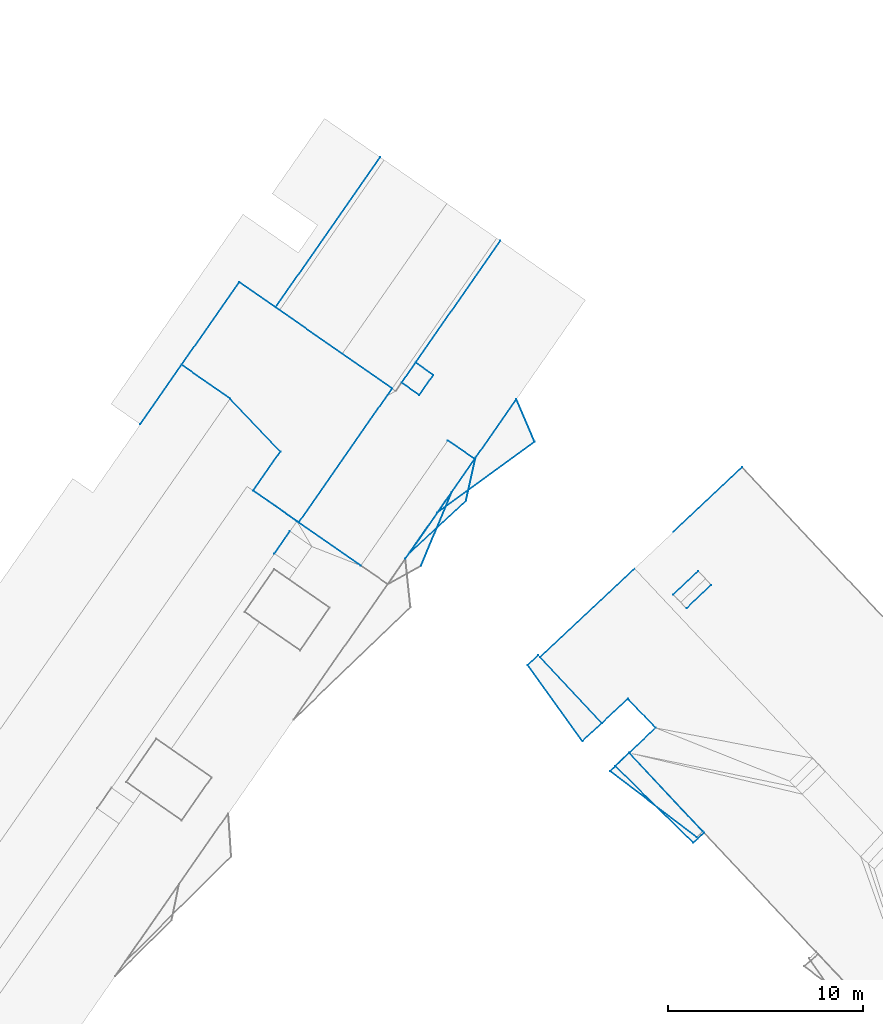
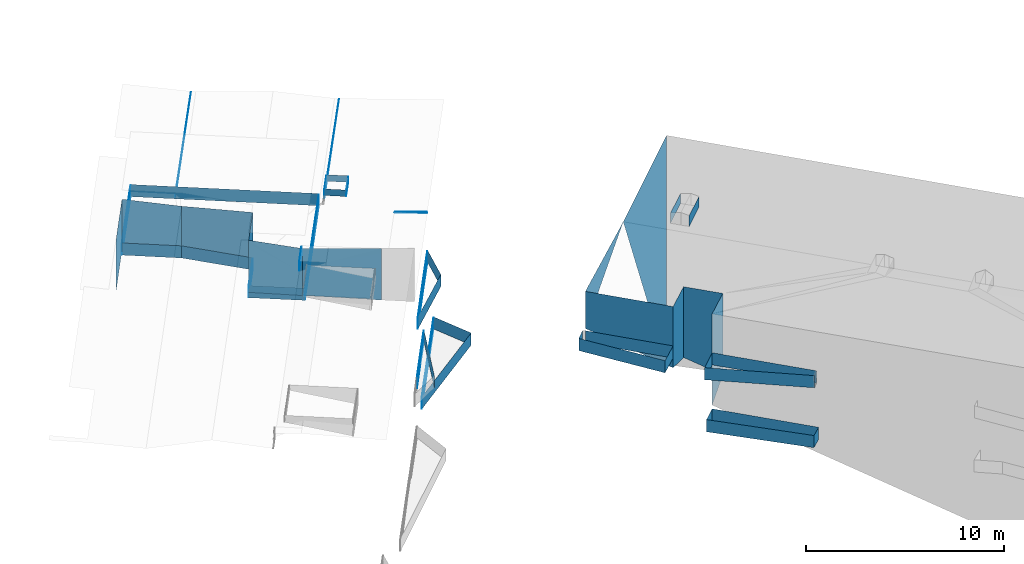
# Not in any storey, part 52 of 136: 80 walls.
"""IFC4 building model written with IfcOpenShell, lengths in metres."""

import ifcopenshell
import ifcopenshell.guid

model = None  # the IFC model being written
_history = None  # IfcOwnerHistory: only IFC2X3 demands one
_inside = {}  # id of a spatial element -> (the spatial element, [elements in it])
_under = {}  # id of a project, library or spatial element -> (it, [spatial elements below it])
_declared = {}  # id of a project -> (the project, [libraries it declares])
_typed = {}  # id of a type object -> (the type object, [elements of that type])
_made_of = {}  # id of a material, layer set ... -> (it, [elements and type objects made of it])


def new_model(schema):
    """Start an empty IFC model of exactly this schema.

    Asked for "IFC4X3", IfcOpenShell would pick the latest addendum, in which some entities
    have other attributes; the version numbers below select the first issue.
    IFC2X3 requires an IfcOwnerHistory on every rooted entity: one is made here for all.
    """
    global model, _history
    if schema == "IFC4X3":
        model = ifcopenshell.file(schema_version=(4, 3, 0, 0))
    else:
        model = ifcopenshell.file(schema=schema)
    _inside.clear()
    _under.clear()
    _declared.clear()
    _typed.clear()
    _made_of.clear()
    _history = None
    if model.schema == "IFC2X3":
        org = make("IfcOrganization", Name="unknown")
        user = make(
            "IfcPersonAndOrganization",
            ThePerson=make("IfcPerson", FamilyName="unknown"),
            TheOrganization=org,
        )
        app = make(
            "IfcApplication",
            ApplicationDeveloper=org,
            Version="unknown",
            ApplicationFullName="unknown",
            ApplicationIdentifier="unknown",
        )
        _history = make(
            "IfcOwnerHistory",
            OwningUser=user,
            OwningApplication=app,
            ChangeAction="ADDED",
            CreationDate=0,
        )
    return model


def make(cls, **values):
    """One entity of the class cls with the attributes given. An attribute that is None is left unset."""
    return model.create_entity(
        cls, **{name: value for name, value in values.items() if value is not None}
    )


def entity(cls, *values):
    """Any entity or typed value of the class cls, its attributes in the order of the schema. None: left unset."""
    e = model.create_entity(cls)
    for i, value in enumerate(values):
        if value is not None:
            e[i] = value
    return e


def rooted(cls, **values):
    """An entity with a GlobalId (a new one), such as an element, a storey or a relation."""
    return make(cls, GlobalId=ifcopenshell.guid.new(), OwnerHistory=_history, **values)


def si_unit(unit_type, name, prefix=None):
    """IfcSIUnit, for example si_unit("LENGTHUNIT", "METRE", prefix="MILLI")."""
    return make("IfcSIUnit", UnitType=unit_type, Prefix=prefix, Name=name)


def converted_unit(unit_type, name, factor, base, dimensions=None, offset=None):
    """IfcConversionBasedUnit, such as the inch: factor (a typed value) times the base unit."""
    return make(
        "IfcConversionBasedUnit"
        if offset is None
        else "IfcConversionBasedUnitWithOffset",
        ConversionOffset=offset,
        Dimensions=None
        if dimensions is None
        else entity("IfcDimensionalExponents", *dimensions),
        UnitType=unit_type,
        Name=name,
        ConversionFactor=make(
            "IfcMeasureWithUnit", ValueComponent=factor, UnitComponent=base
        ),
    )


def assignment(units):
    """IfcUnitAssignment: the units of a project."""
    return None if units is None else make("IfcUnitAssignment", Units=units)


def point(xyz):
    """IfcCartesianPoint."""
    return None if xyz is None else make("IfcCartesianPoint", Coordinates=xyz)


def direction(xyz):
    """IfcDirection."""
    return None if xyz is None else make("IfcDirection", DirectionRatios=xyz)


def frame(location, z_axis=None, x_axis=None):
    """IfcAxis2Placement3D, a coordinate frame: its origin and axes. An axis left out is left unset."""
    return make(
        "IfcAxis2Placement3D",
        Location=point(location),
        Axis=direction(z_axis),
        RefDirection=direction(x_axis),
    )


def origin():
    """The frame at (0, 0, 0) with its axes left unset."""
    return frame((0.0, 0.0, 0.0))


def place(relative_to, where):
    """IfcLocalPlacement: puts the frame where relative to a parent placement (None: the world)."""
    return make(
        "IfcLocalPlacement", PlacementRelTo=relative_to, RelativePlacement=where
    )


def context(
    kind, dimensions, precision=None, world=None, true_north=None, identifier=None
):
    """IfcGeometricRepresentationContext, for example the 3D "Model" context."""
    return make(
        "IfcGeometricRepresentationContext",
        ContextIdentifier=identifier,
        ContextType=kind,
        CoordinateSpaceDimension=dimensions,
        Precision=precision,
        WorldCoordinateSystem=world,
        TrueNorth=true_north,
    )


def subcontext(parent, identifier, kind, view, scale=None):
    """IfcGeometricRepresentationSubContext, for example "Body" below "Model"."""
    return make(
        "IfcGeometricRepresentationSubContext",
        ContextIdentifier=identifier,
        ContextType=kind,
        ParentContext=parent,
        TargetScale=scale,
        TargetView=view,
    )


def project(units=None, contexts=None):
    """IfcProject with its units and contexts."""
    return rooted(
        "IfcProject",
        Name="project",
        RepresentationContexts=contexts,
        UnitsInContext=assignment(units),
    )


def spatial(cls, under=None, at=None, **own):
    """A site, building, storey or space (cls), placed at a placement, below another one or the project."""
    s = rooted(cls, ObjectPlacement=at, **own)
    if under is not None:
        _under.setdefault(under.id(), (under, []))[1].append(s)
    return s


def faces_of(points, faces, orient=None, outer=None):
    """IfcFace entities. A face is a list of loops; a loop is a list of indices into points, from 0.

    orient and outer hold one flag for each loop. By default every Orientation is true, the
    first loop of a face is its IfcFaceOuterBound and the others are IfcFaceBound.
    """
    made = []
    for i, loops in enumerate(faces):
        bounds = []
        for j, loop in enumerate(loops):
            is_outer = j == 0 if outer is None else outer[i][j]
            bounds.append(
                make(
                    "IfcFaceOuterBound" if is_outer else "IfcFaceBound",
                    Bound=make("IfcPolyLoop", Polygon=[points[k] for k in loop]),
                    Orientation=True if orient is None else orient[i][j],
                )
            )
        made.append(make("IfcFace", Bounds=bounds))
    return made


def face_set(faces, orient=None, outer=None):
    """The faces of one IfcConnectedFaceSet. surface_model builds it on its shared points."""
    return ("IfcConnectedFaceSet", faces, orient, outer)


def surface_model(cls, points, shells):
    """IfcFaceBasedSurfaceModel or IfcShellBasedSurfaceModel (cls): surfaces that need not close."""
    shared = [point(p) for p in points]
    made = [make(c, CfsFaces=faces_of(shared, fs, o, b)) for c, fs, o, b in shells]
    if cls == "IfcFaceBasedSurfaceModel":
        return make(cls, FbsmFaces=made)
    return make(cls, SbsmBoundary=made)


def shape(context_of_items, identifier, shape_type, items):
    """IfcShapeRepresentation: the items that make up one representation, for example the "Body"."""
    return make(
        "IfcShapeRepresentation",
        ContextOfItems=context_of_items,
        RepresentationIdentifier=identifier,
        RepresentationType=shape_type,
        Items=items,
    )


def made_of(thing, what):
    """Note that an element or type object is made of a material, layer set ...; save() writes the relation."""
    if what is not None:
        _made_of.setdefault(what.id(), (what, []))[1].append(thing)
    return thing


def element(
    cls,
    number,
    at=None,
    inside=None,
    cuts=None,
    type_object=None,
    material=None,
    context=None,
    identifier="Body",
    shape_type=None,
    held_by="IfcProductDefinitionShape",
    body=None,
    shapes=None,
    **own,
):
    """One element of the class cls, such as IfcWall. Its Tag is "e" and its number.

    at: its placement. inside: the storey or other place that contains it. cuts: it is an
    opening in that element (IfcRelVoidsElement). A single representation is given by context,
    identifier, shape_type and body (its items); several are given by shapes. held_by: the class
    of the entity that holds the representations. save() writes the other relations.
    """
    e = rooted(cls, Tag="e%d" % number, ObjectPlacement=at, **own)
    if body is not None:
        shapes = [shape(context, identifier, shape_type, body)]
    if shapes is not None:
        e.Representation = make(held_by, Representations=shapes)
    if inside is not None:
        _inside.setdefault(inside.id(), (inside, []))[1].append(e)
    if cuts is not None:
        rooted(
            "IfcRelVoidsElement", RelatingBuildingElement=cuts, RelatedOpeningElement=e
        )
    if type_object is not None:
        _typed.setdefault(type_object.id(), (type_object, []))[1].append(e)
    return made_of(e, material)


def aggregate(whole, parts):
    """IfcRelAggregates: a whole, such as a stair, and the parts it consists of."""
    return rooted("IfcRelAggregates", RelatingObject=whole, RelatedObjects=parts)


def save(model, path):
    """Write the relations noted so far, then the file.

    IfcRelAggregates (storeys below a building ...), IfcRelContainedInSpatialStructure (elements
    in a storey), IfcRelDefinesByType, IfcRelAssociatesMaterial and IfcRelDeclares: one each for
    every whole, place, type object, material and project.
    """
    for whole, parts in _under.values():
        aggregate(whole, parts)
    for where, things in _inside.values():
        rooted(
            "IfcRelContainedInSpatialStructure",
            RelatedElements=things,
            RelatingStructure=where,
        )
    for kind, things in _typed.values():
        rooted("IfcRelDefinesByType", RelatedObjects=things, RelatingType=kind)
    for what, things in _made_of.values():
        rooted("IfcRelAssociatesMaterial", RelatedObjects=things, RelatingMaterial=what)
    for by, libraries in _declared.values():
        rooted("IfcRelDeclares", RelatingContext=by, RelatedDefinitions=libraries)
    model.write(path)


model = new_model("IFC4")

# Units and contexts
model_context = context("Model", 3, precision=1e-05, world=origin())
body_context = subcontext(model_context, "Body", "Model", "MODEL_VIEW")
ifc_project = project(units=[converted_unit("PLANEANGLEUNIT", "DEGREE", entity("IfcRatioMeasure", 0.0174532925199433), si_unit("PLANEANGLEUNIT", "RADIAN"), dimensions=[0, 0, 0, 0, 0, 0, 0]), si_unit("AREAUNIT", "SQUARE_METRE"), si_unit("LENGTHUNIT", "METRE")], contexts=[model_context])

# Site, building
site_placement = place(None, origin())
site = spatial("IfcSite", under=ifc_project, at=site_placement, Name="_site")
building_1_placement = place(site_placement, origin())
building_1 = spatial("IfcBuilding", under=site, at=building_1_placement, Name="_building")

# Walls
wall_1_placement = place(building_1_placement, origin())
element("IfcWall", 1, at=wall_1_placement, inside=building_1, Name="Wall", PredefinedType="NOTDEFINED", context=body_context, shape_type="SurfaceModel", body=[
    surface_model("IfcFaceBasedSurfaceModel", [(-4.44, 132.12, 47.63), (-1.28, 128.75, 47.63), (-1.28, 128.75, 48.38), (-4.44, 132.12, 48.38)], [face_set([[[0, 1, 2, 3]]])]),
])
wall_2_placement = place(building_1_placement, origin())
element("IfcWall", 2, at=wall_2_placement, inside=building_1, Name="Wall", PredefinedType="NOTDEFINED", context=body_context, shape_type="SurfaceModel", body=[
    surface_model("IfcFaceBasedSurfaceModel", [(-5.07, 131.7, 47.63), (-4.54, 132.22, 47.63), (-4.54, 132.22, 48.38), (-5.07, 131.7, 48.38)], [face_set([[[0, 1, 2, 3]]])]),
])
wall_3_placement = place(building_1_placement, origin())
element("IfcWall", 3, at=wall_3_placement, inside=building_1, Name="Wall", PredefinedType="NOTDEFINED", context=body_context, shape_type="SurfaceModel", body=[
    surface_model("IfcFaceBasedSurfaceModel", [(-2.28, 127.83, 47.63), (-5.07, 131.7, 47.63), (-5.07, 131.7, 48.38), (-2.28, 127.83, 48.38)], [face_set([[[0, 1, 2, 3]]])]),
])
wall_4_placement = place(building_1_placement, origin())
element("IfcWall", 4, at=wall_4_placement, inside=building_1, Name="Wall", PredefinedType="NOTDEFINED", context=body_context, shape_type="SurfaceModel", body=[
    surface_model("IfcFaceBasedSurfaceModel", [(-1.28, 128.75, 47.63), (-2.28, 127.83, 47.63), (-2.28, 127.83, 48.38), (-1.28, 128.75, 48.38)], [face_set([[[0, 1, 2, 3]]])]),
])
wall_5_placement = place(building_1_placement, origin())
element("IfcWall", 5, at=wall_5_placement, inside=building_1, Name="Wall", PredefinedType="NOTDEFINED", context=body_context, shape_type="SurfaceModel", body=[
    surface_model("IfcFaceBasedSurfaceModel", [(-5.07, 131.7, 47.63), (-4.54, 132.22, 47.63), (-4.54, 132.22, 48.38), (-5.07, 131.7, 48.38)], [face_set([[[0, 1, 2, 3]]])]),
])
wall_6_placement = place(building_1_placement, origin())
element("IfcWall", 6, at=wall_6_placement, inside=building_1, Name="Wall", PredefinedType="NOTDEFINED", context=body_context, shape_type="SurfaceModel", body=[
    surface_model("IfcFaceBasedSurfaceModel", [(-2.28, 127.83, 47.63), (-5.07, 131.7, 47.63), (-5.07, 131.7, 48.38), (-2.28, 127.83, 48.38)], [face_set([[[0, 1, 2, 3]]])]),
])
wall_7_placement = place(building_1_placement, origin())
element("IfcWall", 7, at=wall_7_placement, inside=building_1, Name="Wall", PredefinedType="NOTDEFINED", context=body_context, shape_type="SurfaceModel", body=[
    surface_model("IfcFaceBasedSurfaceModel", [(4.31, 135.811, 51.34), (3.04, 134.61, 51.34), (3.04, 134.61, 50.664), (4.31, 135.811, 50.714)], [face_set([[[0, 1, 2, 3]]])]),
])
wall_8_placement = place(building_1_placement, origin())
element("IfcWall", 8, at=wall_8_placement, inside=building_1, Name="Wall", PredefinedType="NOTDEFINED", context=body_context, shape_type="SurfaceModel", body=[
    surface_model("IfcFaceBasedSurfaceModel", [(-0.87, 126.28, 47.65), (0.11, 127.22, 47.65), (0.11, 127.22, 48.4), (-0.87, 126.28, 48.4)], [face_set([[[0, 1, 2, 3]]])]),
])
for number, where, name in (
    (9, (0.0, 0.0, 0.0), "Wall"),
    (10, (0.0, 0.0, 0.0), "Wall"),
):
    element("IfcWall", number, at=place(building_1_placement, frame(where)), inside=building_1, Name=name, PredefinedType="NOTDEFINED", context=body_context, shape_type="SurfaceModel", body=[
        surface_model("IfcFaceBasedSurfaceModel", [(3.57, 122.9, 47.65), (-0.87, 126.28, 47.65), (-0.87, 126.28, 48.4), (3.57, 122.9, 48.4)], [face_set([[[0, 1, 2, 3]]])]),
    ])
wall_9_placement = place(building_1_placement, origin())
element("IfcWall", 11, at=wall_9_placement, inside=building_1, Name="Wall", PredefinedType="NOTDEFINED", context=body_context, shape_type="SurfaceModel", body=[
    surface_model("IfcFaceBasedSurfaceModel", [(0.11, 127.22, 47.65), (3.87, 123.22, 47.65), (3.87, 123.22, 48.4), (0.11, 127.22, 48.4)], [face_set([[[0, 1, 2, 3]]])]),
])
wall_10_placement = place(building_1_placement, origin())
element("IfcWall", 12, at=wall_10_placement, inside=building_1, Name="Wall", PredefinedType="NOTDEFINED", context=body_context, shape_type="SurfaceModel", body=[
    surface_model("IfcFaceBasedSurfaceModel", [(-0.87, 126.28, 47.65), (0.11, 127.22, 47.65), (0.11, 127.22, 48.4), (-0.87, 126.28, 48.4)], [face_set([[[0, 1, 2, 3]]])]),
])
wall_11_placement = place(building_1_placement, origin())
element("IfcWall", 13, at=wall_11_placement, inside=building_1, Name="Wall", PredefinedType="NOTDEFINED", context=body_context, shape_type="SurfaceModel", body=[
    surface_model("IfcFaceBasedSurfaceModel", [(0.11, 127.22, 44.2), (3.95, 123.13, 44.2), (3.95, 123.13, 44.95), (0.11, 127.22, 44.95)], [face_set([[[0, 1, 2, 3]]])]),
])
wall_12_placement = place(building_1_placement, origin())
element("IfcWall", 14, at=wall_12_placement, inside=building_1, Name="Wall", PredefinedType="NOTDEFINED", context=body_context, shape_type="SurfaceModel", body=[
    surface_model("IfcFaceBasedSurfaceModel", [(0.05, 130.0, 50.8), (-1.28, 128.75, 50.8), (-1.28, 128.75, 47.031), (0.05, 130.0, 46.443)], [face_set([[[0, 1, 2, 3]]])]),
])
wall_13_placement = place(building_1_placement, origin())
element("IfcWall", 15, at=wall_13_placement, inside=building_1, Name="Wall", PredefinedType="NOTDEFINED", context=body_context, shape_type="SurfaceModel", body=[
    surface_model("IfcFaceBasedSurfaceModel", [(-4.44, 132.12, 50.8), (0.38, 136.65, 50.65), (-4.44, 132.12, 48.519)], [face_set([[[0, 1, 2]]])]),
])
wall_14_placement = place(building_1_placement, origin())
element("IfcWall", 16, at=wall_14_placement, inside=building_1, Name="Wall", PredefinedType="NOTDEFINED", context=body_context, shape_type="SurfaceModel", body=[
    surface_model("IfcFaceBasedSurfaceModel", [(-1.28, 128.75, 50.8), (-4.44, 132.12, 50.8), (-4.44, 132.12, 48.519), (-1.28, 128.75, 47.031)], [face_set([[[0, 1, 2, 3]]])]),
])
wall_15_placement = place(building_1_placement, origin())
element("IfcWall", 17, at=wall_15_placement, inside=building_1, Name="Wall", PredefinedType="NOTDEFINED", context=body_context, shape_type="SurfaceModel", body=[
    surface_model("IfcFaceBasedSurfaceModel", [(0.11, 127.22, 50.8), (1.47, 128.5, 50.8), (1.47, 128.5, 45.778), (0.11, 127.22, 45.176)], [face_set([[[0, 1, 2, 3]]])]),
])
wall_16_placement = place(building_1_placement, origin())
element("IfcWall", 18, at=wall_16_placement, inside=building_1, Name="Wall", PredefinedType="NOTDEFINED", context=body_context, shape_type="SurfaceModel", body=[
    surface_model("IfcFaceBasedSurfaceModel", [(1.47, 128.5, 50.8), (0.05, 130.0, 50.8), (0.05, 130.0, 46.443), (1.47, 128.5, 45.778)], [face_set([[[0, 1, 2, 3]]])]),
])
wall_17_placement = place(building_1_placement, origin())
element("IfcWall", 19, at=wall_17_placement, inside=building_1, Name="Wall", PredefinedType="NOTDEFINED", context=body_context, shape_type="SurfaceModel", body=[
    surface_model("IfcFaceBasedSurfaceModel", [(0.38, 136.65, 50.65), (5.89, 141.84, 50.89), (5.89, 141.84, 36.789)], [face_set([[[0, 1, 2]]])]),
])
wall_18_placement = place(building_1_placement, origin())
element("IfcWall", 20, at=wall_18_placement, inside=building_1, Name="Wall", PredefinedType="NOTDEFINED", context=body_context, shape_type="SurfaceModel", body=[
    surface_model("IfcFaceBasedSurfaceModel", [(-1.28, 128.75, 47.63), (-2.28, 127.83, 47.63), (-2.28, 127.83, 48.38), (-1.28, 128.75, 48.38)], [face_set([[[0, 1, 2, 3]]])]),
])
wall_19_placement = place(building_1_placement, origin())
element("IfcWall", 21, at=wall_19_placement, inside=building_1, Name="Wall", PredefinedType="NOTDEFINED", context=body_context, shape_type="SurfaceModel", body=[
    surface_model("IfcFaceBasedSurfaceModel", [(-4.44, 132.12, 47.63), (-1.28, 128.75, 47.63), (-1.28, 128.75, 48.38), (-4.44, 132.12, 48.38)], [face_set([[[0, 1, 2, 3]]])]),
])
wall_20_placement = place(building_1_placement, origin())
element("IfcWall", 22, at=wall_20_placement, inside=building_1, Name="Wall", PredefinedType="NOTDEFINED", context=body_context, shape_type="SurfaceModel", body=[
    surface_model("IfcFaceBasedSurfaceModel", [(2.37, 135.32, 51.32), (3.64, 136.521, 51.32), (3.64, 136.521, 50.715), (2.37, 135.32, 50.664)], [face_set([[[0, 1, 2, 3]]])]),
])
wall_21_placement = place(building_1_placement, origin())
element("IfcWall", 23, at=wall_21_placement, inside=building_1, Name="Wall", PredefinedType="NOTDEFINED", context=body_context, shape_type="SurfaceModel", body=[
    surface_model("IfcFaceBasedSurfaceModel", [(-0.61, 126.54, 44.2), (0.11, 127.22, 44.2), (0.11, 127.22, 44.95), (-0.61, 126.54, 44.95)], [face_set([[[0, 1, 2, 3]]])]),
])
wall_22_placement = place(building_1_placement, origin())
element("IfcWall", 24, at=wall_22_placement, inside=building_1, Name="Wall", PredefinedType="NOTDEFINED", context=body_context, shape_type="SurfaceModel", body=[
    surface_model("IfcFaceBasedSurfaceModel", [(3.38, 122.62, 44.2), (-0.61, 126.54, 44.2), (-0.61, 126.54, 44.95), (3.38, 122.62, 44.95)], [face_set([[[0, 1, 2, 3]]])]),
])
wall_23_placement = place(building_1_placement, origin())
element("IfcWall", 25, at=wall_23_placement, inside=building_1, Name="Wall", PredefinedType="NOTDEFINED", context=body_context, shape_type="SurfaceModel", body=[
    surface_model("IfcFaceBasedSurfaceModel", [(3.95, 123.13, 44.2), (3.38, 122.62, 44.2), (3.38, 122.62, 44.95), (3.95, 123.13, 44.95)], [face_set([[[0, 1, 2, 3]]])]),
])
wall_24_placement = place(building_1_placement, origin())
element("IfcWall", 26, at=wall_24_placement, inside=building_1, Name="Wall", PredefinedType="NOTDEFINED", context=body_context, shape_type="SurfaceModel", body=[
    surface_model("IfcFaceBasedSurfaceModel", [(0.11, 127.22, 44.2), (3.95, 123.13, 44.2), (3.95, 123.13, 44.95), (0.11, 127.22, 44.95)], [face_set([[[0, 1, 2, 3]]])]),
])
wall_25_placement = place(building_1_placement, origin())
element("IfcWall", 27, at=wall_25_placement, inside=building_1, Name="Wall", PredefinedType="NOTDEFINED", context=body_context, shape_type="SurfaceModel", body=[
    surface_model("IfcFaceBasedSurfaceModel", [(-0.61, 126.54, 44.2), (0.11, 127.22, 44.2), (0.11, 127.22, 44.95), (-0.61, 126.54, 44.95)], [face_set([[[0, 1, 2, 3]]])]),
])
wall_26_placement = place(building_1_placement, origin())
element("IfcWall", 28, at=wall_26_placement, inside=building_1, Name="Wall", PredefinedType="NOTDEFINED", context=body_context, shape_type="SurfaceModel", body=[
    surface_model("IfcFaceBasedSurfaceModel", [(3.38, 122.62, 44.2), (-0.61, 126.54, 44.2), (-0.61, 126.54, 44.95), (3.38, 122.62, 44.95)], [face_set([[[0, 1, 2, 3]]])]),
])
wall_27_placement = place(building_1_placement, origin())
element("IfcWall", 29, at=wall_27_placement, inside=building_1, Name="Wall", PredefinedType="NOTDEFINED", context=body_context, shape_type="SurfaceModel", body=[
    surface_model("IfcFaceBasedSurfaceModel", [(3.95, 123.13, 44.2), (3.38, 122.62, 44.2), (3.38, 122.62, 44.95), (3.95, 123.13, 44.95)], [face_set([[[0, 1, 2, 3]]])]),
])
wall_28_placement = place(building_1_placement, origin())
element("IfcWall", 30, at=wall_28_placement, inside=building_1, Name="Wall", PredefinedType="NOTDEFINED", context=body_context, shape_type="SurfaceModel", body=[
    surface_model("IfcFaceBasedSurfaceModel", [(0.11, 127.22, 47.65), (3.87, 123.22, 47.65), (3.87, 123.22, 48.4), (0.11, 127.22, 48.4)], [face_set([[[0, 1, 2, 3]]])]),
])

# Building
building_2_placement = place(site_placement, origin())
building_2 = spatial("IfcBuilding", under=site, at=building_2_placement, Name="_building")

# Walls
wall_29_placement = place(building_2_placement, origin())
element("IfcWall", 31, at=wall_29_placement, inside=building_2, Name="Wall", PredefinedType="NOTDEFINED", context=body_context, shape_type="SurfaceModel", body=[
    surface_model("IfcFaceBasedSurfaceModel", [(-8.97, 140.561, 44.17), (-10.54, 136.79, 44.17), (-10.54, 136.79, 44.92), (-8.97, 140.561, 44.92)], [face_set([[[0, 1, 2, 3]]])]),
])
wall_30_placement = place(building_2_placement, origin())
element("IfcWall", 32, at=wall_30_placement, inside=building_2, Name="Wall", PredefinedType="NOTDEFINED", context=body_context, shape_type="SurfaceModel", body=[
    surface_model("IfcFaceBasedSurfaceModel", [(-11.34, 137.15, 44.17), (-8.97, 140.561, 44.17), (-8.97, 140.561, 44.92), (-11.34, 137.15, 44.92)], [face_set([[[0, 1, 2, 3]]])]),
])
wall_31_placement = place(building_2_placement, origin())
element("IfcWall", 33, at=wall_31_placement, inside=building_2, Name="Wall", PredefinedType="NOTDEFINED", context=body_context, shape_type="SurfaceModel", body=[
    surface_model("IfcFaceBasedSurfaceModel", [(-10.82, 147.18, 51.08), (-9.91, 146.55, 51.08), (-9.91, 146.55, 50.676), (-10.82, 147.18, 50.676)], [face_set([[[0, 1, 2, 3]]])]),
])
wall_32_placement = place(building_2_placement, origin())
element("IfcWall", 34, at=wall_32_placement, inside=building_2, Name="Wall", PredefinedType="NOTDEFINED", context=body_context, shape_type="SurfaceModel", body=[
    surface_model("IfcFaceBasedSurfaceModel", [(-16.79, 139.01, 50.39), (-19.13, 140.63, 50.39), (-19.13, 140.63, 51.14), (-16.79, 139.01, 51.14)], [face_set([[[0, 1, 2, 3]]])]),
])
wall_33_placement = place(building_2_placement, origin())
element("IfcWall", 35, at=wall_33_placement, inside=building_2, Name="Wall", PredefinedType="NOTDEFINED", context=body_context, shape_type="SurfaceModel", body=[
    surface_model("IfcFaceBasedSurfaceModel", [(-20.31, 145.34, 50.39), (-22.79, 147.07, 50.39), (-22.79, 147.07, 51.14), (-20.31, 145.34, 51.14)], [face_set([[[0, 1, 2, 3]]])]),
])
wall_34_placement = place(building_2_placement, origin())
element("IfcWall", 36, at=wall_34_placement, inside=building_2, Name="Wall", PredefinedType="NOTDEFINED", context=body_context, shape_type="SurfaceModel", body=[
    surface_model("IfcFaceBasedSurfaceModel", [(-19.13, 140.63, 50.39), (-17.73, 142.64, 50.39), (-17.73, 142.64, 51.14), (-19.13, 140.63, 51.14)], [face_set([[[0, 1, 2, 3]]])]),
])
wall_35_placement = place(building_2_placement, origin())
element("IfcWall", 37, at=wall_35_placement, inside=building_2, Name="Wall", PredefinedType="NOTDEFINED", context=body_context, shape_type="SurfaceModel", body=[
    surface_model("IfcFaceBasedSurfaceModel", [(-16.79, 139.01, 50.39), (-19.13, 140.63, 50.39), (-19.13, 140.63, 51.14), (-16.79, 139.01, 51.14)], [face_set([[[0, 1, 2, 3]]])]),
])
wall_36_placement = place(building_2_placement, origin())
element("IfcWall", 38, at=wall_36_placement, inside=building_2, Name="Wall", PredefinedType="NOTDEFINED", context=body_context, shape_type="SurfaceModel", body=[
    surface_model("IfcFaceBasedSurfaceModel", [(-12.02, 145.86, 50.39), (-16.79, 139.01, 50.39), (-16.79, 139.01, 51.14), (-12.02, 145.86, 51.14)], [face_set([[[0, 1, 2, 3]]])]),
])
wall_37_placement = place(building_2_placement, origin())
element("IfcWall", 39, at=wall_37_placement, inside=building_2, Name="Wall", PredefinedType="NOTDEFINED", context=body_context, shape_type="SurfaceModel", body=[
    surface_model("IfcFaceBasedSurfaceModel", [(-22.79, 147.07, 50.39), (-19.84, 151.3, 50.39), (-19.84, 151.3, 51.14), (-22.79, 147.07, 51.14)], [face_set([[[0, 1, 2, 3]]])]),
])
wall_38_placement = place(building_2_placement, origin())
element("IfcWall", 40, at=wall_38_placement, inside=building_2, Name="Wall", PredefinedType="NOTDEFINED", context=body_context, shape_type="SurfaceModel", body=[
    surface_model("IfcFaceBasedSurfaceModel", [(-20.31, 145.34, 50.39), (-22.79, 147.07, 50.39), (-22.79, 147.07, 51.14), (-20.31, 145.34, 51.14)], [face_set([[[0, 1, 2, 3]]])]),
])
wall_39_placement = place(building_2_placement, origin())
element("IfcWall", 41, at=wall_39_placement, inside=building_2, Name="Wall", PredefinedType="NOTDEFINED", context=body_context, shape_type="SurfaceModel", body=[
    surface_model("IfcFaceBasedSurfaceModel", [(-10.63, 145.521, 51.08), (-11.533, 146.152, 51.08), (-11.533, 146.152, 50.676), (-10.63, 145.521, 50.676)], [face_set([[[0, 1, 2, 3]]])]),
])
wall_40_placement = place(building_2_placement, origin())
element("IfcWall", 42, at=wall_40_placement, inside=building_2, Name="Wall", PredefinedType="NOTDEFINED", context=body_context, shape_type="SurfaceModel", body=[
    surface_model("IfcFaceBasedSurfaceModel", [(-7.75, 142.311, 47.57), (-8.24, 140.12, 47.57), (-8.24, 140.12, 48.32), (-7.75, 142.311, 48.32)], [face_set([[[0, 1, 2, 3]]])]),
])
wall_41_placement = place(building_2_placement, origin())
element("IfcWall", 43, at=wall_41_placement, inside=building_2, Name="Wall", PredefinedType="NOTDEFINED", context=body_context, shape_type="SurfaceModel", body=[
    surface_model("IfcFaceBasedSurfaceModel", [(-22.79, 147.07, 50.39), (-19.84, 151.3, 50.39), (-19.84, 151.3, 51.14), (-22.79, 147.07, 51.14)], [face_set([[[0, 1, 2, 3]]])]),
])
wall_42_placement = place(building_2_placement, origin())
element("IfcWall", 44, at=wall_42_placement, inside=building_2, Name="Wall", PredefinedType="NOTDEFINED", context=body_context, shape_type="SurfaceModel", body=[
    surface_model("IfcFaceBasedSurfaceModel", [(-19.84, 151.3, 50.39), (-12.02, 145.86, 50.39), (-12.02, 145.86, 51.14), (-19.84, 151.3, 51.14)], [face_set([[[0, 1, 2, 3]]])]),
])
wall_43_placement = place(building_2_placement, origin())
element("IfcWall", 45, at=wall_43_placement, inside=building_2, Name="Wall", PredefinedType="NOTDEFINED", context=body_context, shape_type="SurfaceModel", body=[
    surface_model("IfcFaceBasedSurfaceModel", [(-11.12, 137.45, 47.57), (-8.97, 140.561, 47.57), (-8.97, 140.561, 48.32), (-11.12, 137.45, 48.32)], [face_set([[[0, 1, 2, 3]]])]),
])
wall_44_placement = place(building_2_placement, origin())
element("IfcWall", 46, at=wall_44_placement, inside=building_2, Name="Wall", PredefinedType="NOTDEFINED", context=body_context, shape_type="SurfaceModel", body=[
    surface_model("IfcFaceBasedSurfaceModel", [(-8.24, 140.12, 47.57), (-11.12, 137.45, 47.57), (-11.12, 137.45, 48.32), (-8.24, 140.12, 48.32)], [face_set([[[0, 1, 2, 3]]])]),
])
wall_45_placement = place(building_2_placement, origin())
element("IfcWall", 47, at=wall_45_placement, inside=building_2, Name="Wall", PredefinedType="NOTDEFINED", context=body_context, shape_type="SurfaceModel", body=[
    surface_model("IfcFaceBasedSurfaceModel", [(-20.31, 145.34, 53.58), (-17.73, 142.64, 53.93), (-17.73, 142.64, 50.72), (-20.31, 145.34, 50.72)], [face_set([[[0, 1, 2, 3]]])]),
])
wall_46_placement = place(building_2_placement, origin())
element("IfcWall", 48, at=wall_46_placement, inside=building_2, Name="Wall", PredefinedType="NOTDEFINED", context=body_context, shape_type="SurfaceModel", body=[
    surface_model("IfcFaceBasedSurfaceModel", [(-24.9, 144.03, 53.83), (-22.79, 147.07, 53.83), (-22.79, 147.07, 50.64), (-24.9, 144.03, 50.64)], [face_set([[[0, 1, 2, 3]]])]),
])
wall_47_placement = place(building_2_placement, origin())
element("IfcWall", 49, at=wall_47_placement, inside=building_2, Name="Wall", PredefinedType="NOTDEFINED", context=body_context, shape_type="SurfaceModel", body=[
    surface_model("IfcFaceBasedSurfaceModel", [(-22.79, 147.07, 53.83), (-20.31, 145.34, 53.58), (-20.31, 145.34, 50.72), (-22.79, 147.07, 50.64)], [face_set([[[0, 1, 2, 3]]])]),
])
wall_48_placement = place(building_2_placement, origin())
element("IfcWall", 50, at=wall_48_placement, inside=building_2, Name="Wall", PredefinedType="NOTDEFINED", context=body_context, shape_type="SurfaceModel", body=[
    surface_model("IfcFaceBasedSurfaceModel", [(-17.73, 142.64, 53.93), (-19.13, 140.63, 53.93), (-19.13, 140.63, 50.72), (-17.73, 142.64, 50.72)], [face_set([[[0, 1, 2, 3]]])]),
])
wall_49_placement = place(building_2_placement, origin())
element("IfcWall", 51, at=wall_49_placement, inside=building_2, Name="Wall", PredefinedType="NOTDEFINED", context=body_context, shape_type="SurfaceModel", body=[
    surface_model("IfcFaceBasedSurfaceModel", [(-19.13, 140.63, 53.93), (-16.89, 139.07, 53.58), (-16.89, 139.07, 50.687), (-19.13, 140.63, 50.72)], [face_set([[[0, 1, 2, 3]]])]),
])
wall_50_placement = place(building_2_placement, origin())
element("IfcWall", 52, at=wall_50_placement, inside=building_2, Name="Wall", PredefinedType="NOTDEFINED", context=body_context, shape_type="SurfaceModel", body=[
    surface_model("IfcFaceBasedSurfaceModel", [(-8.24, 140.12, 47.57), (-11.12, 137.45, 47.57), (-11.12, 137.45, 48.32), (-8.24, 140.12, 48.32)], [face_set([[[0, 1, 2, 3]]])]),
])
wall_51_placement = place(building_2_placement, origin())
element("IfcWall", 53, at=wall_51_placement, inside=building_2, Name="Wall", PredefinedType="NOTDEFINED", context=body_context, shape_type="SurfaceModel", body=[
    surface_model("IfcFaceBasedSurfaceModel", [(-7.75, 142.311, 47.57), (-8.24, 140.12, 47.57), (-8.24, 140.12, 48.32), (-7.75, 142.311, 48.32)], [face_set([[[0, 1, 2, 3]]])]),
])
wall_52_placement = place(building_2_placement, origin())
element("IfcWall", 54, at=wall_52_placement, inside=building_2, Name="Wall", PredefinedType="NOTDEFINED", context=body_context, shape_type="SurfaceModel", body=[
    surface_model("IfcFaceBasedSurfaceModel", [(-8.97, 140.561, 47.57), (-7.75, 142.311, 47.57), (-7.75, 142.311, 48.32), (-8.97, 140.561, 48.32)], [face_set([[[0, 1, 2, 3]]])]),
])
wall_53_placement = place(building_2_placement, origin())
element("IfcWall", 55, at=wall_53_placement, inside=building_2, Name="Wall", PredefinedType="NOTDEFINED", context=body_context, shape_type="SurfaceModel", body=[
    surface_model("IfcFaceBasedSurfaceModel", [(-17.73, 142.64, 50.39), (-20.31, 145.34, 50.39), (-20.31, 145.34, 51.14), (-17.73, 142.64, 51.14)], [face_set([[[0, 1, 2, 3]]])]),
])
wall_54_placement = place(building_2_placement, origin())
element("IfcWall", 56, at=wall_54_placement, inside=building_2, Name="Wall", PredefinedType="NOTDEFINED", context=body_context, shape_type="SurfaceModel", body=[
    surface_model("IfcFaceBasedSurfaceModel", [(-7.79, 142.25, 50.72), (-9.17, 143.2, 50.64), (-9.17, 143.2, 50.59), (-7.79, 142.25, 50.64)], [face_set([[[0, 1, 2, 3]]])]),
])
wall_55_placement = place(building_2_placement, origin())
element("IfcWall", 57, at=wall_55_placement, inside=building_2, Name="Wall", PredefinedType="NOTDEFINED", context=body_context, shape_type="SurfaceModel", body=[
    surface_model("IfcFaceBasedSurfaceModel", [(-19.84, 151.3, 50.39), (-12.02, 145.86, 50.39), (-12.02, 145.86, 51.14), (-19.84, 151.3, 51.14)], [face_set([[[0, 1, 2, 3]]])]),
])
wall_56_placement = place(building_2_placement, origin())
element("IfcWall", 58, at=wall_56_placement, inside=building_2, Name="Wall", PredefinedType="NOTDEFINED", context=body_context, shape_type="SurfaceModel", body=[
    surface_model("IfcFaceBasedSurfaceModel", [(-9.91, 146.55, 51.08), (-10.63, 145.521, 51.08), (-10.63, 145.521, 50.676), (-9.91, 146.55, 50.676)], [face_set([[[0, 1, 2, 3]]])]),
])
wall_57_placement = place(building_2_placement, origin())
element("IfcWall", 59, at=wall_57_placement, inside=building_2, Name="Wall", PredefinedType="NOTDEFINED", context=body_context, shape_type="SurfaceModel", body=[
    surface_model("IfcFaceBasedSurfaceModel", [(-18.039, 137.419, 54.2), (-17.248, 138.56, 54.2), (-17.248, 138.56, 53.58), (-18.039, 137.419, 53.58)], [face_set([[[0, 1, 2, 3]]])]),
])
wall_58_placement = place(building_2_placement, origin())
element("IfcWall", 60, at=wall_58_placement, inside=building_2, Name="Wall", PredefinedType="NOTDEFINED", context=body_context, shape_type="SurfaceModel", body=[
    surface_model("IfcFaceBasedSurfaceModel", [(-10.82, 147.18, 50.676), (-6.48, 153.42, 50.47), (-6.48, 153.42, 50.42), (-10.82, 147.18, 50.47)], [face_set([[[0, 1, 2, 3]]])]),
])
wall_59_placement = place(building_2_placement, origin())
element("IfcWall", 61, at=wall_59_placement, inside=building_2, Name="Wall", PredefinedType="NOTDEFINED", context=body_context, shape_type="SurfaceModel", body=[
    surface_model("IfcFaceBasedSurfaceModel", [(-7.75, 142.311, 40.91), (-5.66, 145.311, 40.91), (-5.66, 145.311, 41.66), (-7.75, 142.311, 41.66)], [face_set([[[0, 1, 2, 3]]])]),
])
wall_60_placement = place(building_2_placement, origin())
element("IfcWall", 62, at=wall_60_placement, inside=building_2, Name="Wall", PredefinedType="NOTDEFINED", context=body_context, shape_type="SurfaceModel", body=[
    surface_model("IfcFaceBasedSurfaceModel", [(-9.7, 139.51, 40.91), (-8.97, 140.561, 40.91), (-8.97, 140.561, 41.66), (-9.7, 139.51, 41.66)], [face_set([[[0, 1, 2, 3]]])]),
])
wall_61_placement = place(building_2_placement, origin())
element("IfcWall", 63, at=wall_61_placement, inside=building_2, Name="Wall", PredefinedType="NOTDEFINED", context=body_context, shape_type="SurfaceModel", body=[
    surface_model("IfcFaceBasedSurfaceModel", [(-5.66, 145.311, 40.91), (-4.73, 143.14, 40.91), (-4.73, 143.14, 41.66), (-5.66, 145.311, 41.66)], [face_set([[[0, 1, 2, 3]]])]),
])
wall_62_placement = place(building_2_placement, origin())
element("IfcWall", 64, at=wall_62_placement, inside=building_2, Name="Wall", PredefinedType="NOTDEFINED", context=body_context, shape_type="SurfaceModel", body=[
    surface_model("IfcFaceBasedSurfaceModel", [(-7.75, 142.311, 40.91), (-5.66, 145.311, 40.91), (-5.66, 145.311, 41.66), (-7.75, 142.311, 41.66)], [face_set([[[0, 1, 2, 3]]])]),
])
wall_63_placement = place(building_2_placement, origin())
element("IfcWall", 65, at=wall_63_placement, inside=building_2, Name="Wall", PredefinedType="NOTDEFINED", context=body_context, shape_type="SurfaceModel", body=[
    surface_model("IfcFaceBasedSurfaceModel", [(-8.97, 140.561, 40.91), (-7.75, 142.311, 40.91), (-7.75, 142.311, 41.66), (-8.97, 140.561, 41.66)], [face_set([[[0, 1, 2, 3]]])]),
])
wall_64_placement = place(building_2_placement, origin())
element("IfcWall", 66, at=wall_64_placement, inside=building_2, Name="Wall", PredefinedType="NOTDEFINED", context=body_context, shape_type="SurfaceModel", body=[
    surface_model("IfcFaceBasedSurfaceModel", [(-4.73, 143.14, 40.91), (-9.7, 139.51, 40.91), (-9.7, 139.51, 41.66), (-4.73, 143.14, 41.66)], [face_set([[[0, 1, 2, 3]]])]),
])
wall_65_placement = place(building_2_placement, origin())
element("IfcWall", 67, at=wall_65_placement, inside=building_2, Name="Wall", PredefinedType="NOTDEFINED", context=body_context, shape_type="SurfaceModel", body=[
    surface_model("IfcFaceBasedSurfaceModel", [(-5.66, 145.311, 40.91), (-4.73, 143.14, 40.91), (-4.73, 143.14, 41.66), (-5.66, 145.311, 41.66)], [face_set([[[0, 1, 2, 3]]])]),
])
wall_66_placement = place(building_2_placement, origin())
element("IfcWall", 68, at=wall_66_placement, inside=building_2, Name="Wall", PredefinedType="NOTDEFINED", context=body_context, shape_type="SurfaceModel", body=[
    surface_model("IfcFaceBasedSurfaceModel", [(-12.02, 145.86, 50.39), (-16.79, 139.01, 50.39), (-16.79, 139.01, 51.14), (-12.02, 145.86, 51.14)], [face_set([[[0, 1, 2, 3]]])]),
])
wall_67_placement = place(building_2_placement, origin())
element("IfcWall", 69, at=wall_67_placement, inside=building_2, Name="Wall", PredefinedType="NOTDEFINED", context=body_context, shape_type="SurfaceModel", body=[
    surface_model("IfcFaceBasedSurfaceModel", [(-9.7, 139.51, 40.91), (-8.97, 140.561, 40.91), (-8.97, 140.561, 41.66), (-9.7, 139.51, 41.66)], [face_set([[[0, 1, 2, 3]]])]),
])
wall_68_placement = place(building_2_placement, origin())
element("IfcWall", 70, at=wall_68_placement, inside=building_2, Name="Wall", PredefinedType="NOTDEFINED", context=body_context, shape_type="SurfaceModel", body=[
    surface_model("IfcFaceBasedSurfaceModel", [(-17.73, 142.64, 50.39), (-20.31, 145.34, 50.39), (-20.31, 145.34, 51.14), (-17.73, 142.64, 51.14)], [face_set([[[0, 1, 2, 3]]])]),
])
wall_69_placement = place(building_2_placement, origin())
element("IfcWall", 71, at=wall_69_placement, inside=building_2, Name="Wall", PredefinedType="NOTDEFINED", context=body_context, shape_type="SurfaceModel", body=[
    surface_model("IfcFaceBasedSurfaceModel", [(-19.13, 140.63, 50.39), (-17.73, 142.64, 50.39), (-17.73, 142.64, 51.14), (-19.13, 140.63, 51.14)], [face_set([[[0, 1, 2, 3]]])]),
])
wall_70_placement = place(building_2_placement, origin())
element("IfcWall", 72, at=wall_70_placement, inside=building_2, Name="Wall", PredefinedType="NOTDEFINED", context=body_context, shape_type="SurfaceModel", body=[
    surface_model("IfcFaceBasedSurfaceModel", [(-4.73, 143.14, 40.91), (-9.7, 139.51, 40.91), (-9.7, 139.51, 41.66), (-4.73, 143.14, 41.66)], [face_set([[[0, 1, 2, 3]]])]),
])
wall_71_placement = place(building_2_placement, origin())
element("IfcWall", 73, at=wall_71_placement, inside=building_2, Name="Wall", PredefinedType="NOTDEFINED", context=body_context, shape_type="SurfaceModel", body=[
    surface_model("IfcFaceBasedSurfaceModel", [(-16.89, 139.07, 53.58), (-13.62, 136.8, 53.826), (-13.62, 136.8, 50.64), (-16.89, 139.07, 50.687)], [face_set([[[0, 1, 2, 3]]])]),
])
wall_72_placement = place(building_2_placement, origin())
element("IfcWall", 74, at=wall_72_placement, inside=building_2, Name="Wall", PredefinedType="NOTDEFINED", context=body_context, shape_type="SurfaceModel", body=[
    surface_model("IfcFaceBasedSurfaceModel", [(-8.97, 140.561, 40.91), (-7.75, 142.311, 40.91), (-7.75, 142.311, 41.66), (-8.97, 140.561, 41.66)], [face_set([[[0, 1, 2, 3]]])]),
])
wall_73_placement = place(building_2_placement, origin())
element("IfcWall", 75, at=wall_73_placement, inside=building_2, Name="Wall", PredefinedType="NOTDEFINED", context=body_context, shape_type="SurfaceModel", body=[
    surface_model("IfcFaceBasedSurfaceModel", [(-11.533, 146.152, 51.08), (-10.82, 147.18, 51.08), (-10.82, 147.18, 50.47), (-11.533, 146.152, 50.47)], [face_set([[[0, 1, 2, 3]]])]),
])
wall_74_placement = place(building_2_placement, origin())
element("IfcWall", 76, at=wall_74_placement, inside=building_2, Name="Wall", PredefinedType="NOTDEFINED", context=body_context, shape_type="SurfaceModel", body=[
    surface_model("IfcFaceBasedSurfaceModel", [(-8.97, 140.561, 44.17), (-10.54, 136.79, 44.17), (-10.54, 136.79, 44.92), (-8.97, 140.561, 44.92)], [face_set([[[0, 1, 2, 3]]])]),
])
wall_75_placement = place(building_2_placement, origin())
element("IfcWall", 77, at=wall_75_placement, inside=building_2, Name="Wall", PredefinedType="NOTDEFINED", context=body_context, shape_type="SurfaceModel", body=[
    surface_model("IfcFaceBasedSurfaceModel", [(-11.34, 137.15, 44.17), (-8.97, 140.561, 44.17), (-8.97, 140.561, 44.92), (-11.34, 137.15, 44.92)], [face_set([[[0, 1, 2, 3]]])]),
])
wall_76_placement = place(building_2_placement, origin())
element("IfcWall", 78, at=wall_76_placement, inside=building_2, Name="Wall", PredefinedType="NOTDEFINED", context=body_context, shape_type="SurfaceModel", body=[
    surface_model("IfcFaceBasedSurfaceModel", [(-12.63, 157.7, 50.47), (-17.98, 150.01, 50.676), (-17.98, 150.01, 50.47), (-12.63, 157.7, 50.42)], [face_set([[[0, 1, 2, 3]]])]),
])
wall_77_placement = place(building_2_placement, origin())
element("IfcWall", 79, at=wall_77_placement, inside=building_2, Name="Wall", PredefinedType="NOTDEFINED", context=body_context, shape_type="SurfaceModel", body=[
    surface_model("IfcFaceBasedSurfaceModel", [(-11.12, 137.45, 47.57), (-8.97, 140.561, 47.57), (-8.97, 140.561, 48.32), (-11.12, 137.45, 48.32)], [face_set([[[0, 1, 2, 3]]])]),
])
wall_78_placement = place(building_2_placement, origin())
element("IfcWall", 80, at=wall_78_placement, inside=building_2, Name="Wall", PredefinedType="NOTDEFINED", context=body_context, shape_type="SurfaceModel", body=[
    surface_model("IfcFaceBasedSurfaceModel", [(-8.97, 140.561, 47.57), (-7.75, 142.311, 47.57), (-7.75, 142.311, 48.32), (-8.97, 140.561, 48.32)], [face_set([[[0, 1, 2, 3]]])]),
])

save(model, "model.ifc")
